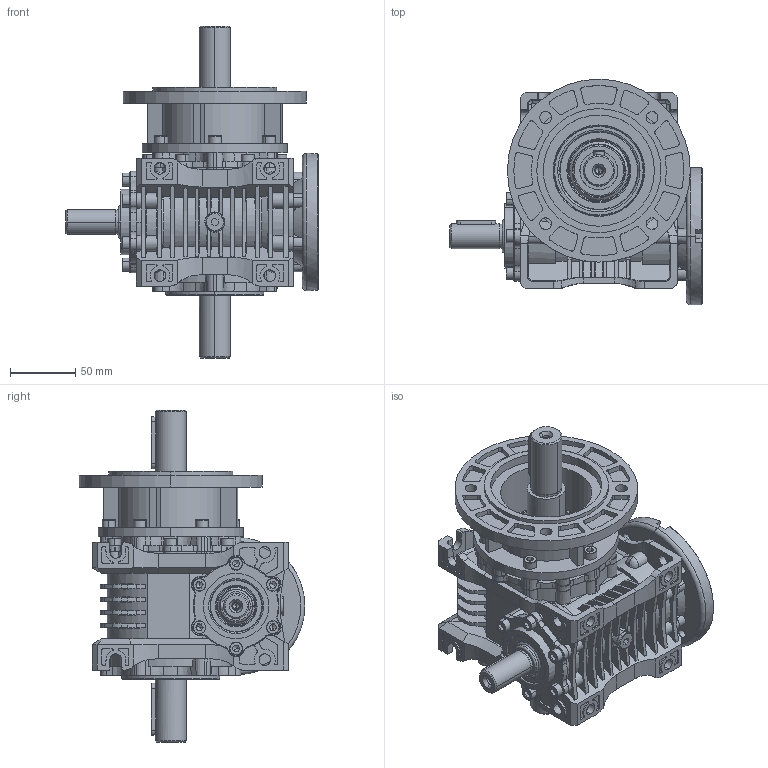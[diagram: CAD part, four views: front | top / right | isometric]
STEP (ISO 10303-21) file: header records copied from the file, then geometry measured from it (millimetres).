
FILE_DESCRIPTION (( 'STEP AP203' ), '1' );
FILE_NAME ('MR-50_105-14_WBS-K140_2-WD_2-3D.STEP', '2023-10-11T09:16:48', ( '' ), ( '' ), 'SwSTEP 2.0', 'SolidWorks 2022', '' );
FILE_SCHEMA (( 'CONFIG_CONTROL_DESIGN' ));
Products named in the file (1): MR-50_105-14_WBS-K140_2-WD_2-3D
Bounding box: 193 x 172.5 x 254 mm (x, y, z)
Volume: 1537072 mm3; surface area: 301081.7 mm2
Topology: 1 solids, 72 shells, 3725 faces, 9612 edges, 6000 vertices
Faces by surface type: plane 1321, cone 1027, cylinder 950, torus 268, bspline 109, sphere 50
Entity records: 133945 total; most frequent: CARTESIAN_POINT 44216, DIRECTION 19198, ORIENTED_EDGE 18848, EDGE_CURVE 9424, AXIS2_PLACEMENT_3D 7423, VERTEX_POINT 5984, LINE 4352, VECTOR 4352
